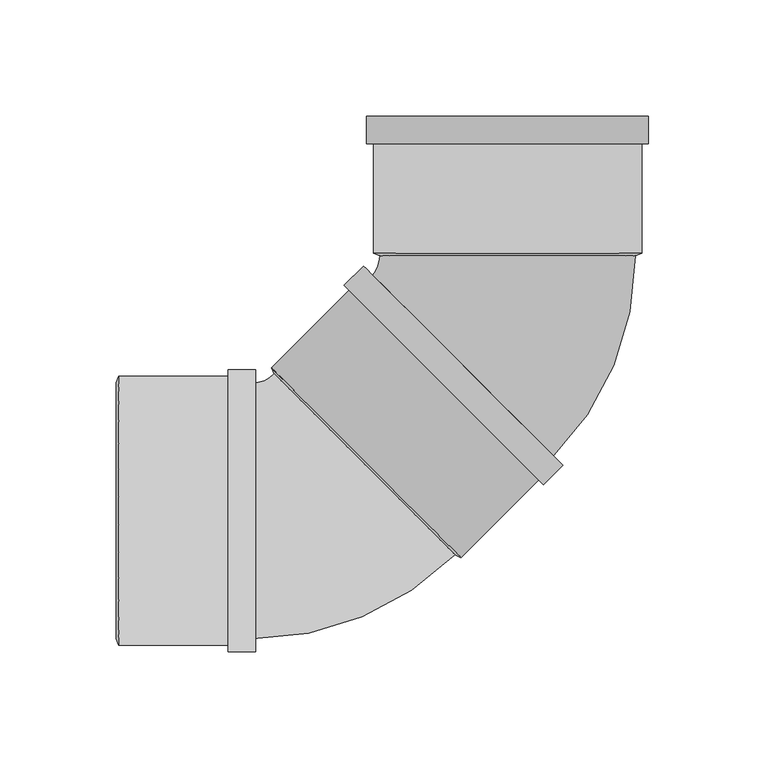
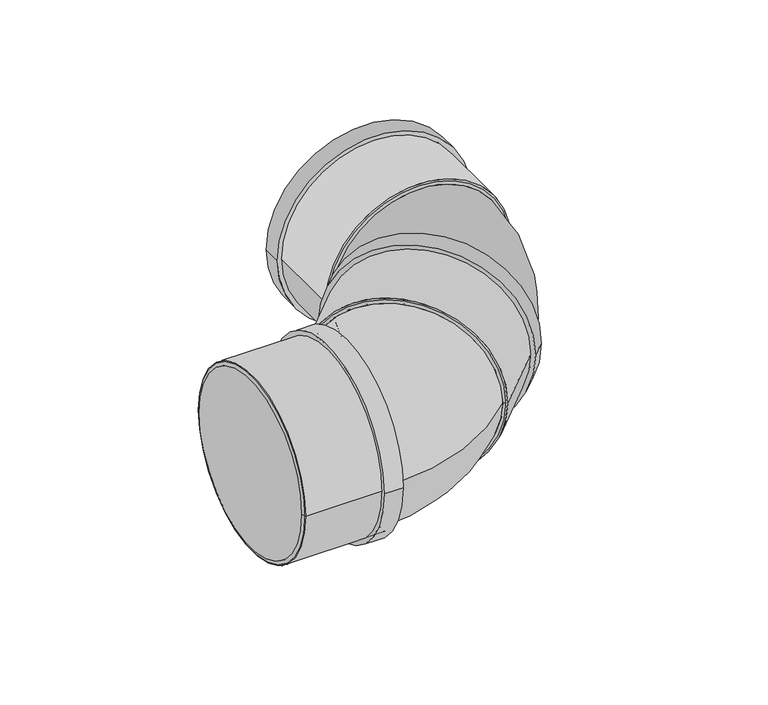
"""IFC4 building model written with IfcOpenShell, lengths in millimetres: pipe fitting geometry, Superdrain SK Bend_Composite 2x45 : Superdrain SK Bend_Composite 2x45."""

import ifcopenshell
import ifcopenshell.guid

model = None  # the IFC model being written
_history = None  # IfcOwnerHistory: only IFC2X3 demands one
_inside = {}  # id of a spatial element -> (the spatial element, [elements in it])
_under = {}  # id of a project, library or spatial element -> (it, [spatial elements below it])
_declared = {}  # id of a project -> (the project, [libraries it declares])
_typed = {}  # id of a type object -> (the type object, [elements of that type])
_made_of = {}  # id of a material, layer set ... -> (it, [elements and type objects made of it])


def new_model(schema):
    """Start an empty IFC model of exactly this schema.

    Asked for "IFC4X3", IfcOpenShell would pick the latest addendum, in which some entities
    have other attributes; the version numbers below select the first issue.
    IFC2X3 requires an IfcOwnerHistory on every rooted entity: one is made here for all.
    """
    global model, _history
    if schema == "IFC4X3":
        model = ifcopenshell.file(schema_version=(4, 3, 0, 0))
    else:
        model = ifcopenshell.file(schema=schema)
    _inside.clear()
    _under.clear()
    _declared.clear()
    _typed.clear()
    _made_of.clear()
    _history = None
    if model.schema == "IFC2X3":
        org = make("IfcOrganization", Name="unknown")
        user = make(
            "IfcPersonAndOrganization",
            ThePerson=make("IfcPerson", FamilyName="unknown"),
            TheOrganization=org,
        )
        app = make(
            "IfcApplication",
            ApplicationDeveloper=org,
            Version="unknown",
            ApplicationFullName="unknown",
            ApplicationIdentifier="unknown",
        )
        _history = make(
            "IfcOwnerHistory",
            OwningUser=user,
            OwningApplication=app,
            ChangeAction="ADDED",
            CreationDate=0,
        )
    return model


def make(cls, **values):
    """One entity of the class cls with the attributes given. An attribute that is None is left unset."""
    return model.create_entity(
        cls, **{name: value for name, value in values.items() if value is not None}
    )


def rooted(cls, **values):
    """An entity with a GlobalId (a new one), such as an element, a storey or a relation."""
    return make(cls, GlobalId=ifcopenshell.guid.new(), OwnerHistory=_history, **values)


def si_unit(unit_type, name, prefix=None):
    """IfcSIUnit, for example si_unit("LENGTHUNIT", "METRE", prefix="MILLI")."""
    return make("IfcSIUnit", UnitType=unit_type, Prefix=prefix, Name=name)


def assignment(units):
    """IfcUnitAssignment: the units of a project."""
    return None if units is None else make("IfcUnitAssignment", Units=units)


def point(xyz):
    """IfcCartesianPoint."""
    return None if xyz is None else make("IfcCartesianPoint", Coordinates=xyz)


def direction(xyz):
    """IfcDirection."""
    return None if xyz is None else make("IfcDirection", DirectionRatios=xyz)


def frame(location, z_axis=None, x_axis=None):
    """IfcAxis2Placement3D, a coordinate frame: its origin and axes. An axis left out is left unset."""
    return make(
        "IfcAxis2Placement3D",
        Location=point(location),
        Axis=direction(z_axis),
        RefDirection=direction(x_axis),
    )


def frame_2d(location, x_axis=None):
    """IfcAxis2Placement2D, a coordinate frame in the plane: its origin and x axis."""
    return make(
        "IfcAxis2Placement2D", Location=point(location), RefDirection=direction(x_axis)
    )


def origin():
    """The frame at (0, 0, 0) with its axes left unset."""
    return frame((0.0, 0.0, 0.0))


def origin_2d():
    """The frame at (0, 0) in the plane with its x axis left unset."""
    return frame_2d((0.0, 0.0))


def place(relative_to, where):
    """IfcLocalPlacement: puts the frame where relative to a parent placement (None: the world)."""
    return make(
        "IfcLocalPlacement", PlacementRelTo=relative_to, RelativePlacement=where
    )


def context(
    kind, dimensions, precision=None, world=None, true_north=None, identifier=None
):
    """IfcGeometricRepresentationContext, for example the 3D "Model" context."""
    return make(
        "IfcGeometricRepresentationContext",
        ContextIdentifier=identifier,
        ContextType=kind,
        CoordinateSpaceDimension=dimensions,
        Precision=precision,
        WorldCoordinateSystem=world,
        TrueNorth=true_north,
    )


def project(units=None, contexts=None):
    """IfcProject with its units and contexts."""
    return rooted(
        "IfcProject",
        Name="project",
        RepresentationContexts=contexts,
        UnitsInContext=assignment(units),
    )


def spatial(cls, under=None, at=None, **own):
    """A site, building, storey or space (cls), placed at a placement, below another one or the project."""
    s = rooted(cls, ObjectPlacement=at, **own)
    if under is not None:
        _under.setdefault(under.id(), (under, []))[1].append(s)
    return s


def polyline(points):
    """IfcPolyline through the points."""
    return make("IfcPolyline", Points=[point(p) for p in points])


def circle_curve(where, radius):
    """IfcCircle in the frame where."""
    return make("IfcCircle", Position=where, Radius=radius)


def ellipse_curve(where, semi_axis1, semi_axis2):
    """IfcEllipse in the frame where."""
    return make(
        "IfcEllipse", Position=where, SemiAxis1=semi_axis1, SemiAxis2=semi_axis2
    )


def trimmed(basis, trim1, trim2, sense, master):
    """IfcTrimmedCurve: the piece of a basis curve between two trims."""
    return make(
        "IfcTrimmedCurve",
        BasisCurve=basis,
        Trim1=trim1,
        Trim2=trim2,
        SenseAgreement=sense,
        MasterRepresentation=master,
    )


def segment(curve, same_sense, transition):
    """IfcCompositeCurveSegment."""
    return make(
        "IfcCompositeCurveSegment",
        Transition=transition,
        SameSense=same_sense,
        ParentCurve=curve,
    )


def composite_curve(segments, self_intersect=None):
    """IfcCompositeCurve: segments joined end to end."""
    return make("IfcCompositeCurve", Segments=segments, SelfIntersect=self_intersect)


def outline(outer, holes=None, kind="AREA"):
    """IfcArbitraryClosedProfileDef: a profile drawn as a closed curve; with holes, ...WithVoids."""
    if holes is None:
        return make("IfcArbitraryClosedProfileDef", ProfileType=kind, OuterCurve=outer)
    return make(
        "IfcArbitraryProfileDefWithVoids",
        ProfileType=kind,
        OuterCurve=outer,
        InnerCurves=holes,
    )


def extrude(swept, where, along, depth):
    """IfcExtrudedAreaSolid: the profile swept, set in the frame where, extruded along a direction by depth."""
    return make(
        "IfcExtrudedAreaSolid",
        SweptArea=swept,
        Position=where,
        ExtrudedDirection=direction(along),
        Depth=depth,
    )


def shape(context_of_items, identifier, shape_type, items):
    """IfcShapeRepresentation: the items that make up one representation, for example the "Body"."""
    return make(
        "IfcShapeRepresentation",
        ContextOfItems=context_of_items,
        RepresentationIdentifier=identifier,
        RepresentationType=shape_type,
        Items=items,
    )


def source(mapping_origin, context_of_items, identifier, shape_type, items):
    """IfcRepresentationMap: a shape defined once, which mapped items show again and again."""
    return make(
        "IfcRepresentationMap",
        MappingOrigin=mapping_origin,
        MappedRepresentation=shape(context_of_items, identifier, shape_type, items),
    )


def transform(
    local_origin,
    x_axis=None,
    y_axis=None,
    z_axis=None,
    scale=None,
    scale2=None,
    scale3=None,
    uniform=True,
):
    """IfcCartesianTransformationOperator3D, or its non-uniform kind. x_axis, y_axis, z_axis: its Axis1, 2, 3."""
    if uniform:
        return make(
            "IfcCartesianTransformationOperator3D",
            Axis1=direction(x_axis),
            Axis2=direction(y_axis),
            LocalOrigin=point(local_origin),
            Scale=scale,
            Axis3=direction(z_axis),
        )
    return make(
        "IfcCartesianTransformationOperator3DnonUniform",
        Axis1=direction(x_axis),
        Axis2=direction(y_axis),
        LocalOrigin=point(local_origin),
        Scale=scale,
        Axis3=direction(z_axis),
        Scale2=scale2,
        Scale3=scale3,
    )


def mapped(mapping_source, mapping_target):
    """IfcMappedItem: shows the shape of a source again, moved by a transform."""
    return make(
        "IfcMappedItem", MappingSource=mapping_source, MappingTarget=mapping_target
    )


def made_of(thing, what):
    """Note that an element or type object is made of a material, layer set ...; save() writes the relation."""
    if what is not None:
        _made_of.setdefault(what.id(), (what, []))[1].append(thing)
    return thing


def element(
    cls,
    number,
    at=None,
    inside=None,
    cuts=None,
    type_object=None,
    material=None,
    context=None,
    identifier="Body",
    shape_type=None,
    held_by="IfcProductDefinitionShape",
    body=None,
    shapes=None,
    **own,
):
    """One element of the class cls, such as IfcWall. Its Tag is "e" and its number.

    at: its placement. inside: the storey or other place that contains it. cuts: it is an
    opening in that element (IfcRelVoidsElement). A single representation is given by context,
    identifier, shape_type and body (its items); several are given by shapes. held_by: the class
    of the entity that holds the representations. save() writes the other relations.
    """
    e = rooted(cls, Tag="e%d" % number, ObjectPlacement=at, **own)
    if body is not None:
        shapes = [shape(context, identifier, shape_type, body)]
    if shapes is not None:
        e.Representation = make(held_by, Representations=shapes)
    if inside is not None:
        _inside.setdefault(inside.id(), (inside, []))[1].append(e)
    if cuts is not None:
        rooted(
            "IfcRelVoidsElement", RelatingBuildingElement=cuts, RelatedOpeningElement=e
        )
    if type_object is not None:
        _typed.setdefault(type_object.id(), (type_object, []))[1].append(e)
    return made_of(e, material)


def aggregate(whole, parts):
    """IfcRelAggregates: a whole, such as a stair, and the parts it consists of."""
    return rooted("IfcRelAggregates", RelatingObject=whole, RelatedObjects=parts)


def save(model, path):
    """Write the relations noted so far, then the file.

    IfcRelAggregates (storeys below a building ...), IfcRelContainedInSpatialStructure (elements
    in a storey), IfcRelDefinesByType, IfcRelAssociatesMaterial and IfcRelDeclares: one each for
    every whole, place, type object, material and project.
    """
    for whole, parts in _under.values():
        aggregate(whole, parts)
    for where, things in _inside.values():
        rooted(
            "IfcRelContainedInSpatialStructure",
            RelatedElements=things,
            RelatingStructure=where,
        )
    for kind, things in _typed.values():
        rooted("IfcRelDefinesByType", RelatedObjects=things, RelatingType=kind)
    for what, things in _made_of.values():
        rooted("IfcRelAssociatesMaterial", RelatedObjects=things, RelatingMaterial=what)
    for by, libraries in _declared.values():
        rooted("IfcRelDeclares", RelatingContext=by, RelatedDefinitions=libraries)
    model.write(path)


def plane_surface(at):
    """IfcPlane: the flat surface through the origin of the frame at, square to its z axis."""
    return make("IfcPlane", Position=at)


def revolved_surface(curve, axis_point, axis_direction):
    """IfcSurfaceOfRevolution: the curve turned about the line through axis_point along axis_direction."""
    return make(
        "IfcSurfaceOfRevolution",
        SweptCurve=make("IfcArbitraryOpenProfileDef", ProfileType="CURVE", Curve=curve),
        AxisPosition=make("IfcAxis1Placement", Location=point(axis_point), Axis=direction(axis_direction)),
    )


def advanced_brep(points, edges, surfaces, faces):
    """IfcAdvancedBrep: a solid bounded by faces that lie on surfaces and meet in shared edges.

    An edge is (start, end): straight between two places in points (the first is 0);
    or (start, end, curve); or (start, end, curve, False) where it runs against its curve.
    A face is (place in surfaces, loops), or (place, loops, False) where it looks against
    its surface's normal. A loop lists edges by number (the first is 1), with a minus sign
    where the edge is run from its end to its start. The first loop is the outer one.
    """
    corners = [point(p) for p in points]
    vertices = [make("IfcVertexPoint", VertexGeometry=c) for c in corners]
    made = []
    for start, end, *more in edges:
        made.append(
            make(
                "IfcEdgeCurve",
                EdgeStart=vertices[start],
                EdgeEnd=vertices[end],
                EdgeGeometry=more[0] if more else make("IfcPolyline", Points=[corners[start], corners[end]]),
                SameSense=more[1] if len(more) > 1 else True,
            )
        )
    hull = []
    for where, loops, *sense in faces:
        bounds = []
        for j, loop in enumerate(loops):
            ring = [make("IfcOrientedEdge", EdgeElement=made[abs(k) - 1], Orientation=k > 0) for k in loop]
            bounds.append(
                make(
                    "IfcFaceOuterBound" if j == 0 else "IfcFaceBound",
                    Bound=make("IfcEdgeLoop", EdgeList=ring),
                    Orientation=True,
                )
            )
        hull.append(make("IfcAdvancedFace", Bounds=bounds, FaceSurface=surfaces[where], SameSense=sense[0] if sense else True))
    return make("IfcAdvancedBrep", Outer=make("IfcClosedShell", CfsFaces=hull))


def pipe_fitting_85ea6e78(model_context):
    return source(origin(), model_context, "Body", "SolidModel", [
        advanced_brep(
        [(55.0, 109.6587012, 0.0), (-55.0, 109.6587012, 0.0), (18.9504617, 22.627417, 0.0), (-58.8312842, 100.4091629, 0.0)],
        [
            (0, 1, circle_curve(frame((0.0, 109.6587012, 0.0), z_axis=(0.0, 1.0, 0.0), x_axis=(-1.0, 0.0, 0.0)), 55.0)),
            (1, 0, circle_curve(frame((0.0, 109.6587012, 0.0), z_axis=(0.0, 0.9999999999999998, 0.0), x_axis=(-0.9999999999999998, 0.0, 0.0)), 55.0)),
            (2, 3, circle_curve(frame((-19.9404112, 61.51829, 0.0), z_axis=(-0.7071067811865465, -0.7071067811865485, 0.0), x_axis=(-0.7071067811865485, 0.7071067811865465, 0.0)), 55.0)),
            (3, 2, circle_curve(frame((-19.9404112, 61.51829, 0.0), z_axis=(-0.7071067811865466, -0.7071067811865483, 0.0), x_axis=(-0.7071067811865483, 0.7071067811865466, 0.0)), 55.0)),
            (3, 1, circle_curve(frame((-68.0808225, 109.6587012, 0.0), z_axis=(0.0, 0.0, 1.0), x_axis=(0.7071067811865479, 0.707106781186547, 0.0)), 13.0808225)),
            (0, 2, circle_curve(frame((-68.0808225, 109.6587012, 0.0), z_axis=(0.0, 0.0, -1.0), x_axis=(0.7071067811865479, 0.707106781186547, 0.0)), 123.0808225)),
        ],
        [
            plane_surface(frame((0.0, 109.6587012, 0.0), z_axis=(0.0, 1.0, 0.0), x_axis=(0.0, 0.0, -1.0))),
            plane_surface(frame((-19.9404112, 61.51829, 0.0), z_axis=(-0.7071067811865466, -0.7071067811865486, 0.0), x_axis=(0.0, 0.0, -1.0))),
            revolved_surface(trimmed(ellipse_curve(frame((-19.9404112, 157.7991124, 0.0), z_axis=(0.707106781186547, -0.7071067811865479, 0.0), x_axis=(-0.7071067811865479, -0.707106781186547, 0.0)), 55.0, 55.0), [point((-58.8312842, 118.9082395, 0.0))], [point((18.9504617, 196.6899854, 0.0))], True, "CARTESIAN"), (-68.0808225, 109.6587012, 0.0), (0.0, 0.0, 1.0)),
            revolved_surface(trimmed(ellipse_curve(frame((-19.9404112, 157.7991124, 0.0), z_axis=(0.707106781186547, -0.7071067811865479, 0.0), x_axis=(-0.7071067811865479, -0.707106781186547, 0.0)), 55.0, 55.0), [point((18.9504617, 196.6899854, 0.0))], [point((-58.8312842, 118.9082395, 0.0))], True, "CARTESIAN"), (-68.0808225, 109.6587012, 0.0), (0.0, 0.0, 1.0)),
        ],
        [
            (0, [[1, 2]]),
            (1, [[3, 4]]),
            (2, [[-4, 5, -1, 6]]),
            (3, [[-3, -6, -2, -5]]),
        ],
    ),
        extrude(outline(composite_curve([segment(trimmed(circle_curve(origin_2d(), 57.75), [point((0.0, 57.75))], [point((0.0, -57.75))], False, "CARTESIAN"), True, "CONTINUOUS"), segment(trimmed(circle_curve(origin_2d(), 57.75), [point((0.0, -57.75))], [point((0.0, 57.75))], False, "CARTESIAN"), True, "CONTINUOUS")], self_intersect=False), holes=[composite_curve([segment(trimmed(circle_curve(origin_2d(), 55.0), [point((0.0, 55.0))], [point((0.0, -55.0))], True, "CARTESIAN"), True, "CONTINUOUS"), segment(trimmed(circle_curve(origin_2d(), 55.0), [point((0.0, -55.0))], [point((0.0, 55.0))], True, "CARTESIAN"), True, "CONTINUOUS")], self_intersect=False)]), frame((0.0, 110.6587012, 0.0), z_axis=(0.0, 1.0, 0.0), x_axis=(0.0, 0.0, 1.0)), (0.0, 0.0, 1.0), 59.0),
        extrude(outline(composite_curve([segment(trimmed(circle_curve(origin_2d(), 60.6375), [point((0.0, -60.6375))], [point((0.0, 60.6375))], False, "CARTESIAN"), True, "CONTINUOUS"), segment(trimmed(circle_curve(origin_2d(), 60.6375), [point((0.0, 60.6375))], [point((0.0, -60.6375))], False, "CARTESIAN"), True, "CONTINUOUS")], self_intersect=False), holes=[composite_curve([segment(trimmed(circle_curve(origin_2d(), 55.0), [point((0.0, -55.0))], [point((0.0, 55.0))], True, "CARTESIAN"), True, "CONTINUOUS"), segment(trimmed(circle_curve(origin_2d(), 55.0), [point((0.0, 55.0))], [point((0.0, -55.0))], True, "CARTESIAN"), True, "CONTINUOUS")], self_intersect=False)]), frame((0.0, 157.8587012, 0.0), z_axis=(0.0, 1.0, 0.0), x_axis=(0.0, 0.0, 1.0)), (0.0, 0.0, 1.0), 11.8),
        advanced_brep(
        [(57.75, 110.6587012, 0.0), (-57.75, 110.6587012, 0.0), (55.0, 109.6587012, 0.0), (-55.0, 109.6587012, 0.0)],
        [
            (0, 1, circle_curve(frame((0.0, 110.6587012, 0.0), z_axis=(0.0, 1.0, 0.0), x_axis=(0.9999999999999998, 0.0, 0.0)), 57.75)),
            (1, 0, circle_curve(frame((0.0, 110.6587012, 0.0), z_axis=(0.0, 1.0, 0.0), x_axis=(-0.9999999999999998, 0.0, 0.0)), 57.75)),
            (2, 3, circle_curve(frame((0.0, 109.6587012, 0.0), z_axis=(0.0, -1.0, 0.0), x_axis=(-0.9999999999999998, 0.0, 0.0)), 55.0)),
            (3, 2, circle_curve(frame((0.0, 109.6587012, 0.0), z_axis=(0.0, -1.0, 0.0), x_axis=(0.9999999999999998, 0.0, 0.0)), 55.0)),
            (3, 1),
            (0, 2),
        ],
        [
            plane_surface(frame((0.0, 110.6587012, 0.0), z_axis=(0.0, 1.0, 0.0), x_axis=(0.0, 0.0, -1.0))),
            plane_surface(frame((0.0, 109.6587012, 0.0), z_axis=(0.0, -1.0, 0.0), x_axis=(0.0, 0.0, -1.0))),
            revolved_surface(polyline([(-55.0, 109.6587012, 0.0), (-57.75, 110.6587012, 0.0)]), (0.0, 89.6587012, 0.0), (0.0, 0.9999999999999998, 0.0)),
            revolved_surface(polyline([(55.0, 109.6587012, 0.0), (57.75, 110.6587012, 0.0)]), (0.0, 89.6587012, 0.0), (0.0, 0.9999999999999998, 0.0)),
        ],
        [
            (0, [[1, 2]]),
            (1, [[3, 4]]),
            (2, [[-4, 5, -1, 6]]),
            (3, [[-3, -6, -2, -5]]),
        ],
    ),
        extrude(outline(composite_curve([segment(trimmed(circle_curve(origin_2d(), 55.0), [point((0.0, -55.0))], [point((0.0, 55.0))], False, "CARTESIAN"), True, "CONTINUOUS"), segment(trimmed(circle_curve(origin_2d(), 55.0), [point((0.0, 55.0))], [point((0.0, -55.0))], False, "CARTESIAN"), True, "CONTINUOUS")], self_intersect=False)), frame((-60.8111832, 20.647518, 0.0), z_axis=(0.707106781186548, 0.7071067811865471, 0.0), x_axis=(0.0, 0.0, -1.0)), (0.0, 0.0, 1.0), 57.8),
        extrude(outline(composite_curve([segment(trimmed(circle_curve(origin_2d(), 57.75), [point((57.75, 0.0))], [point((-57.75, 0.0))], False, "CARTESIAN"), True, "CONTINUOUS"), segment(trimmed(circle_curve(origin_2d(), 57.75), [point((-57.75, 0.0))], [point((57.75, 0.0))], False, "CARTESIAN"), True, "CONTINUOUS")], self_intersect=False), holes=[composite_curve([segment(trimmed(circle_curve(origin_2d(), 55.0), [point((55.0, 0.0))], [point((-55.0, 0.0))], True, "CARTESIAN"), True, "CONTINUOUS"), segment(trimmed(circle_curve(origin_2d(), 55.0), [point((-55.0, 0.0))], [point((55.0, 0.0))], True, "CARTESIAN"), True, "CONTINUOUS")], self_intersect=False)]), frame((-167.4587012, 0.0, 0.0), z_axis=(1.0, 0.0, 0.0), x_axis=(0.0, 1.0, 0.0)), (0.0, 0.0, 1.0), 59.0),
        extrude(outline(composite_curve([segment(trimmed(circle_curve(origin_2d(), 60.6375), [point((60.6375, 0.0))], [point((-60.6375, 0.0))], False, "CARTESIAN"), True, "CONTINUOUS"), segment(trimmed(circle_curve(origin_2d(), 60.6375), [point((-60.6375, 0.0))], [point((60.6375, 0.0))], False, "CARTESIAN"), True, "CONTINUOUS")], self_intersect=False), holes=[composite_curve([segment(trimmed(circle_curve(origin_2d(), 55.0), [point((55.0, 0.0))], [point((-55.0, 0.0))], True, "CARTESIAN"), True, "CONTINUOUS"), segment(trimmed(circle_curve(origin_2d(), 55.0), [point((-55.0, 0.0))], [point((55.0, 0.0))], True, "CARTESIAN"), True, "CONTINUOUS")], self_intersect=False)]), frame((-120.2587012, 0.0, 0.0), z_axis=(1.0, 0.0, 0.0), x_axis=(0.0, 1.0, 0.0)), (0.0, 0.0, 1.0), 11.8),
        advanced_brep(
        [(-168.4587012, 55.0, 0.0), (-168.4587012, -55.0, 0.0), (-167.4587012, 57.75, 0.0), (-167.4587012, -57.75, 0.0)],
        [
            (0, 1, circle_curve(frame((-168.4587012, 0.0, 0.0), z_axis=(-1.0, 0.0, 0.0), x_axis=(0.0, 1.0000000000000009, 0.0)), 55.0)),
            (1, 0, circle_curve(frame((-168.4587012, 0.0, 0.0), z_axis=(-1.0, 0.0, 0.0), x_axis=(0.0, -1.0000000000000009, 0.0)), 55.0)),
            (2, 3, circle_curve(frame((-167.4587012, 0.0, 0.0), z_axis=(1.0, 0.0, 0.0), x_axis=(0.0, -1.0000000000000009, 0.0)), 57.75)),
            (3, 2, circle_curve(frame((-167.4587012, 0.0, 0.0), z_axis=(1.0, 0.0, 0.0), x_axis=(0.0, 1.0000000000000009, 0.0)), 57.75)),
            (3, 1),
            (0, 2),
        ],
        [
            plane_surface(frame((-168.4587012, 0.0, 0.0), z_axis=(-1.0, 0.0, 0.0), x_axis=(0.0, 0.0, -1.0))),
            plane_surface(frame((-167.4587012, 0.0, 0.0), z_axis=(1.0, 0.0, 0.0), x_axis=(0.0, 0.0, -1.0))),
            revolved_surface(polyline([(-168.4587012, 54.99999999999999, 0.0), (-167.4587012, 57.75, 0.0)]), (-188.4587012, 0.0, 0.0), (1.0000000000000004, 0.0, 0.0)),
            revolved_surface(polyline([(-168.4587012, -54.99999999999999, 0.0), (-167.4587012, -57.75, 0.0)]), (-188.4587012, 0.0, 0.0), (1.0000000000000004, 0.0, 0.0)),
        ],
        [
            (0, [[1, 2]]),
            (1, [[3, 4]]),
            (2, [[-4, 5, -1, 6]]),
            (3, [[-3, -6, -2, -5]]),
        ],
    ),
        advanced_brep(
        [(-22.627417, -18.9504617, 0.0), (-100.4091629, 58.8312842, 0.0), (-109.6587012, -55.0, 0.0), (-109.6587012, 55.0, 0.0)],
        [
            (0, 1, circle_curve(frame((-61.51829, 19.9404112, 0.0), z_axis=(0.7071067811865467, 0.7071067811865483, 0.0), x_axis=(-0.7071067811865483, 0.7071067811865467, 0.0)), 55.0)),
            (1, 0, circle_curve(frame((-61.51829, 19.9404112, 0.0), z_axis=(0.7071067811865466, 0.7071067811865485, 0.0), x_axis=(-0.7071067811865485, 0.7071067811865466, 0.0)), 55.0)),
            (2, 3, circle_curve(frame((-109.6587012, 0.0, 0.0), z_axis=(-1.0, 0.0, 0.0), x_axis=(0.0, 1.0, 0.0)), 55.0)),
            (3, 2, circle_curve(frame((-109.6587012, 0.0, 0.0), z_axis=(-1.0, 0.0, 0.0), x_axis=(0.0, 1.0, 0.0)), 55.0)),
            (3, 1, circle_curve(frame((-109.6587012, 68.0808225, 0.0), z_axis=(0.0, 0.0, 1.0), x_axis=(1.0, 0.0, 0.0)), 13.0808225)),
            (0, 2, circle_curve(frame((-109.6587012, 68.0808225, 0.0), z_axis=(0.0, 0.0, -1.0), x_axis=(1.0, 0.0, 0.0)), 123.0808225)),
        ],
        [
            plane_surface(frame((-61.51829, 19.9404112, 0.0), z_axis=(0.7071067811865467, 0.7071067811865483, 0.0), x_axis=(0.0, 0.0, -1.0))),
            plane_surface(frame((-109.6587012, 0.0, 0.0), z_axis=(-1.0, 0.0, 0.0), x_axis=(0.0, 0.0, -1.0))),
            revolved_surface(trimmed(ellipse_curve(frame((-41.5778787, 68.0808225, 0.0), z_axis=(0.0, -1.0, 0.0), x_axis=(-1.0, 0.0, 0.0)), 55.0, 55.0), [point((-96.5778787, 68.0808225, 0.0))], [point((13.4221213, 68.0808225, 0.0))], True, "CARTESIAN"), (-109.6587012, 68.0808225, 0.0), (0.0, 0.0, 1.0)),
            revolved_surface(trimmed(ellipse_curve(frame((-41.5778787, 68.0808225, 0.0), z_axis=(0.0, -1.0, 0.0), x_axis=(-1.0, 0.0, 0.0)), 55.0, 55.0), [point((13.4221213, 68.0808225, 0.0))], [point((-96.5778787, 68.0808225, 0.0))], True, "CARTESIAN"), (-109.6587012, 68.0808225, 0.0), (0.0, 0.0, 1.0)),
        ],
        [
            (0, [[1, 2]]),
            (1, [[3, 4]]),
            (2, [[-4, 5, -1, 6]]),
            (3, [[-3, -6, -2, -5]]),
        ],
    ),
        extrude(outline(composite_curve([segment(trimmed(circle_curve(origin_2d(), 57.75), [point((0.0, 57.75))], [point((0.0, -57.75))], False, "CARTESIAN"), True, "CONTINUOUS"), segment(trimmed(circle_curve(origin_2d(), 57.75), [point((0.0, -57.75))], [point((0.0, 57.75))], False, "CARTESIAN"), True, "CONTINUOUS")], self_intersect=False), holes=[composite_curve([segment(trimmed(circle_curve(origin_2d(), 55.0), [point((0.0, 55.0))], [point((0.0, -55.0))], True, "CARTESIAN"), True, "CONTINUOUS"), segment(trimmed(circle_curve(origin_2d(), 55.0), [point((0.0, -55.0))], [point((0.0, 55.0))], True, "CARTESIAN"), True, "CONTINUOUS")], self_intersect=False)]), frame((-60.8111832, 20.647518, 0.0), z_axis=(0.707106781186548, 0.7071067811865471, 0.0), x_axis=(0.0, 0.0, 1.0)), (0.0, 0.0, 1.0), 59.0),
        extrude(outline(composite_curve([segment(trimmed(circle_curve(origin_2d(), 60.6375), [point((0.0, -60.6375))], [point((0.0, 60.6375))], False, "CARTESIAN"), True, "CONTINUOUS"), segment(trimmed(circle_curve(origin_2d(), 60.6375), [point((0.0, 60.6375))], [point((0.0, -60.6375))], False, "CARTESIAN"), True, "CONTINUOUS")], self_intersect=False), holes=[composite_curve([segment(trimmed(circle_curve(origin_2d(), 55.0), [point((0.0, -55.0))], [point((0.0, 55.0))], True, "CARTESIAN"), True, "CONTINUOUS"), segment(trimmed(circle_curve(origin_2d(), 55.0), [point((0.0, 55.0))], [point((0.0, -55.0))], True, "CARTESIAN"), True, "CONTINUOUS")], self_intersect=False)]), frame((-27.4357431, 54.0229581, 0.0), z_axis=(0.7071067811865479, 0.7071067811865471, 0.0), x_axis=(0.0, 0.0, 1.0)), (0.0, 0.0, 1.0), 11.8),
        advanced_brep(
        [(-19.9757666, -20.1878986, 0.0), (-101.6465998, 61.4829346, 0.0), (-22.627417, -18.9504617, 0.0), (-100.4091629, 58.8312842, 0.0)],
        [
            (0, 1, circle_curve(frame((-60.8111832, 20.647518, 0.0), z_axis=(0.7071067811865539, 0.7071067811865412, 0.0), x_axis=(0.7071067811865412, -0.7071067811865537, 0.0)), 57.75)),
            (1, 0, circle_curve(frame((-60.8111832, 20.647518, 0.0), z_axis=(0.7071067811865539, 0.7071067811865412, 0.0), x_axis=(-0.7071067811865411, 0.7071067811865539, 0.0)), 57.75)),
            (2, 3, circle_curve(frame((-61.51829, 19.9404112, 0.0), z_axis=(-0.7071067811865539, -0.7071067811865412, 0.0), x_axis=(-0.7071067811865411, 0.7071067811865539, 0.0)), 55.0)),
            (3, 2, circle_curve(frame((-61.51829, 19.9404112, 0.0), z_axis=(-0.7071067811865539, -0.7071067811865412, 0.0), x_axis=(0.7071067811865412, -0.7071067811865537, 0.0)), 55.0)),
            (3, 1),
            (0, 2),
        ],
        [
            plane_surface(frame((-60.8111832, 20.647518, 0.0), z_axis=(0.7071067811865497, 0.7071067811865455, 0.0), x_axis=(0.0, 0.0, -1.0))),
            plane_surface(frame((-61.51829, 19.9404112, 0.0), z_axis=(-0.7071067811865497, -0.7071067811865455, 0.0), x_axis=(0.0, 0.0, -1.0))),
            revolved_surface(polyline([(-100.40916290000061, 58.83128410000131, 0.0), (-101.64659980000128, 61.482934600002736, 0.0)]), (-75.6604256, 5.7982756, 0.0), (0.7071067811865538, 0.7071067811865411, 0.0)),
            revolved_surface(polyline([(-22.627417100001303, -18.95046169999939, 0.0), (-19.9757666, -20.1878986, 0.0)]), (-75.6604256, 5.7982756, 0.0), (0.7071067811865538, 0.7071067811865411, 0.0)),
        ],
        [
            (0, [[1, 2]]),
            (1, [[3, 4]]),
            (2, [[-4, 5, -1, 6]]),
            (3, [[-3, -6, -2, -5]]),
        ],
    ),
        extrude(outline(composite_curve([segment(trimmed(circle_curve(origin_2d(), 55.0), [point((-55.0, 0.0))], [point((55.0, 0.0))], False, "CARTESIAN"), True, "CONTINUOUS"), segment(trimmed(circle_curve(origin_2d(), 55.0), [point((55.0, 0.0))], [point((-55.0, 0.0))], False, "CARTESIAN"), True, "CONTINUOUS")], self_intersect=False)), frame((-167.4587012, 0.0, 0.0), z_axis=(1.0, 0.0, 0.0), x_axis=(0.0, 1.0, 0.0)), (0.0, 0.0, 1.0), 57.8),
    ])


if __name__ == "__main__":
    model = new_model("IFC4")
    model_context = context("Model", 3, world=origin())
    ifc_project = project(units=[si_unit("LENGTHUNIT", "METRE", prefix="MILLI")], contexts=[model_context])
    site = spatial("IfcSite", under=ifc_project)
    building = spatial("IfcBuilding", under=site)
    placement = place(None, origin())
    pipe_fitting_shape = pipe_fitting_85ea6e78(model_context)
    element("IfcPipeFitting", 1, ObjectType="Superdrain SK Bend_Composite 2x45 : Superdrain SK Bend_Composite 2x45", at=placement, inside=building, context=model_context, shape_type="MappedRepresentation", body=[
        mapped(pipe_fitting_shape, transform((0.0, 0.0, 0.0), x_axis=(1.0, 0.0, 0.0), y_axis=(0.0, 1.0, 0.0), z_axis=(0.0, 0.0, 1.0))),
    ])
    save(model, "model.ifc")
